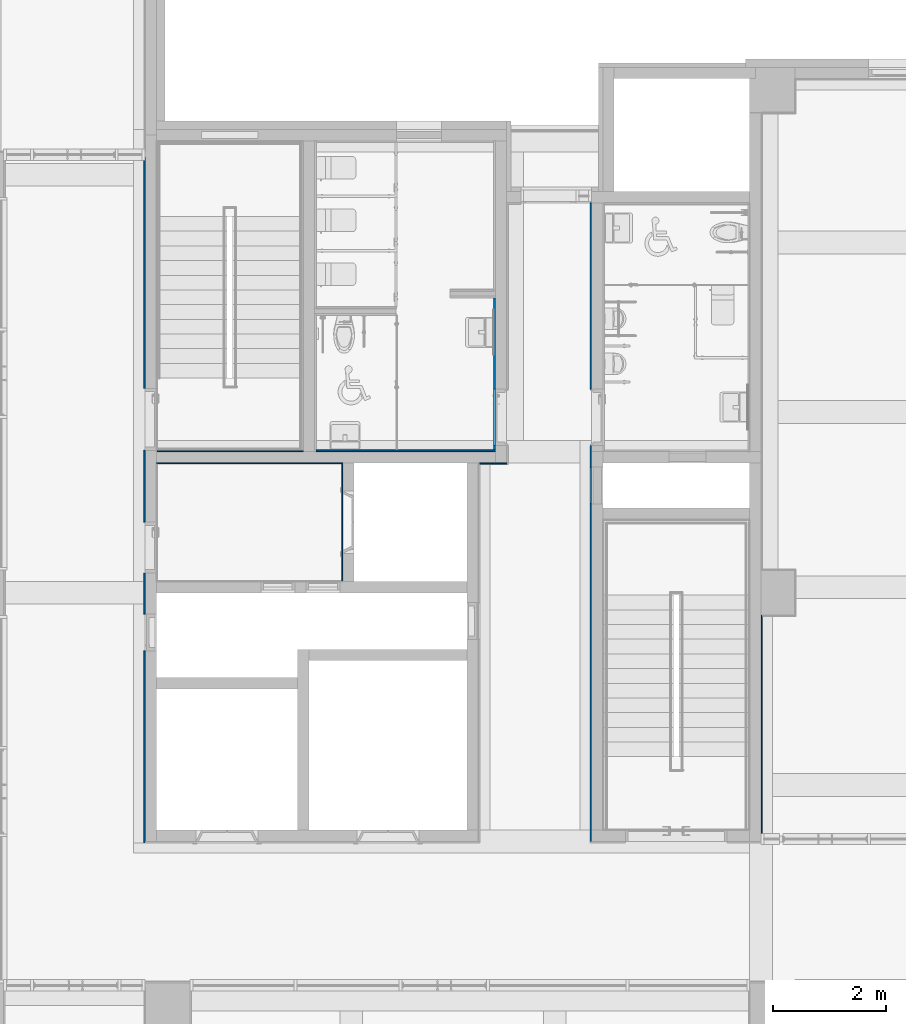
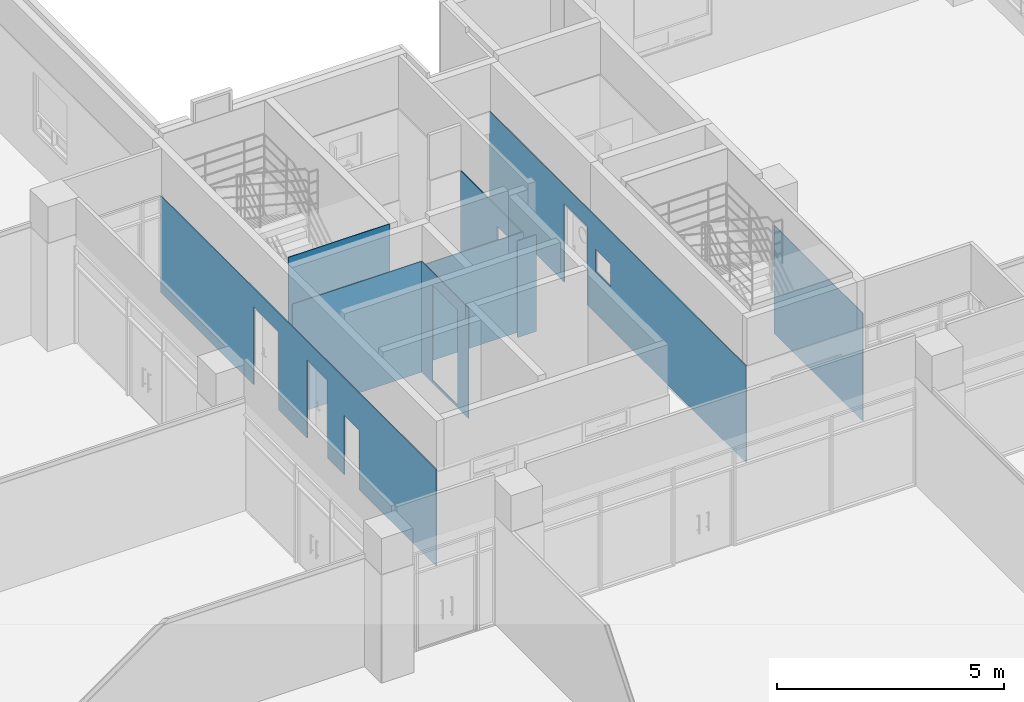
# One storey, part 57 of 81: 9 walls, 7 openings.
"""IFC2X3 building model written with IfcOpenShell, lengths in millimetres."""

import ifcopenshell
import ifcopenshell.guid

model = None  # the IFC model being written
_history = None  # IfcOwnerHistory: only IFC2X3 demands one
_inside = {}  # id of a spatial element -> (the spatial element, [elements in it])
_under = {}  # id of a project, library or spatial element -> (it, [spatial elements below it])
_declared = {}  # id of a project -> (the project, [libraries it declares])
_typed = {}  # id of a type object -> (the type object, [elements of that type])
_made_of = {}  # id of a material, layer set ... -> (it, [elements and type objects made of it])


def new_model(schema):
    """Start an empty IFC model of exactly this schema.

    Asked for "IFC4X3", IfcOpenShell would pick the latest addendum, in which some entities
    have other attributes; the version numbers below select the first issue.
    IFC2X3 requires an IfcOwnerHistory on every rooted entity: one is made here for all.
    """
    global model, _history
    if schema == "IFC4X3":
        model = ifcopenshell.file(schema_version=(4, 3, 0, 0))
    else:
        model = ifcopenshell.file(schema=schema)
    _inside.clear()
    _under.clear()
    _declared.clear()
    _typed.clear()
    _made_of.clear()
    _history = None
    if model.schema == "IFC2X3":
        org = make("IfcOrganization", Name="unknown")
        user = make(
            "IfcPersonAndOrganization",
            ThePerson=make("IfcPerson", FamilyName="unknown"),
            TheOrganization=org,
        )
        app = make(
            "IfcApplication",
            ApplicationDeveloper=org,
            Version="unknown",
            ApplicationFullName="unknown",
            ApplicationIdentifier="unknown",
        )
        _history = make(
            "IfcOwnerHistory",
            OwningUser=user,
            OwningApplication=app,
            ChangeAction="ADDED",
            CreationDate=0,
        )
    return model


def make(cls, **values):
    """One entity of the class cls with the attributes given. An attribute that is None is left unset."""
    return model.create_entity(
        cls, **{name: value for name, value in values.items() if value is not None}
    )


def entity(cls, *values):
    """Any entity or typed value of the class cls, its attributes in the order of the schema. None: left unset."""
    e = model.create_entity(cls)
    for i, value in enumerate(values):
        if value is not None:
            e[i] = value
    return e


def rooted(cls, **values):
    """An entity with a GlobalId (a new one), such as an element, a storey or a relation."""
    return make(cls, GlobalId=ifcopenshell.guid.new(), OwnerHistory=_history, **values)


def si_unit(unit_type, name, prefix=None):
    """IfcSIUnit, for example si_unit("LENGTHUNIT", "METRE", prefix="MILLI")."""
    return make("IfcSIUnit", UnitType=unit_type, Prefix=prefix, Name=name)


def converted_unit(unit_type, name, factor, base, dimensions=None, offset=None):
    """IfcConversionBasedUnit, such as the inch: factor (a typed value) times the base unit."""
    return make(
        "IfcConversionBasedUnit"
        if offset is None
        else "IfcConversionBasedUnitWithOffset",
        ConversionOffset=offset,
        Dimensions=None
        if dimensions is None
        else entity("IfcDimensionalExponents", *dimensions),
        UnitType=unit_type,
        Name=name,
        ConversionFactor=make(
            "IfcMeasureWithUnit", ValueComponent=factor, UnitComponent=base
        ),
    )


def derived_unit(unit_type, elements):
    """IfcDerivedUnit: a product of units, each with its exponent."""
    return make(
        "IfcDerivedUnit",
        Elements=[
            make("IfcDerivedUnitElement", Unit=unit, Exponent=power)
            for unit, power in elements
        ],
        UnitType=unit_type,
    )


def assignment(units):
    """IfcUnitAssignment: the units of a project."""
    return None if units is None else make("IfcUnitAssignment", Units=units)


def point(xyz):
    """IfcCartesianPoint."""
    return None if xyz is None else make("IfcCartesianPoint", Coordinates=xyz)


def direction(xyz):
    """IfcDirection."""
    return None if xyz is None else make("IfcDirection", DirectionRatios=xyz)


def frame(location, z_axis=None, x_axis=None):
    """IfcAxis2Placement3D, a coordinate frame: its origin and axes. An axis left out is left unset."""
    return make(
        "IfcAxis2Placement3D",
        Location=point(location),
        Axis=direction(z_axis),
        RefDirection=direction(x_axis),
    )


def frame_2d(location, x_axis=None):
    """IfcAxis2Placement2D, a coordinate frame in the plane: its origin and x axis."""
    return make(
        "IfcAxis2Placement2D", Location=point(location), RefDirection=direction(x_axis)
    )


def origin():
    """The frame at (0, 0, 0) with its axes left unset."""
    return frame((0.0, 0.0, 0.0))


def place(relative_to, where):
    """IfcLocalPlacement: puts the frame where relative to a parent placement (None: the world)."""
    return make(
        "IfcLocalPlacement", PlacementRelTo=relative_to, RelativePlacement=where
    )


def context(
    kind, dimensions, precision=None, world=None, true_north=None, identifier=None
):
    """IfcGeometricRepresentationContext, for example the 3D "Model" context."""
    return make(
        "IfcGeometricRepresentationContext",
        ContextIdentifier=identifier,
        ContextType=kind,
        CoordinateSpaceDimension=dimensions,
        Precision=precision,
        WorldCoordinateSystem=world,
        TrueNorth=true_north,
    )


def subcontext(parent, identifier, kind, view, scale=None):
    """IfcGeometricRepresentationSubContext, for example "Body" below "Model"."""
    return make(
        "IfcGeometricRepresentationSubContext",
        ContextIdentifier=identifier,
        ContextType=kind,
        ParentContext=parent,
        TargetScale=scale,
        TargetView=view,
    )


def project(units=None, contexts=None):
    """IfcProject with its units and contexts."""
    return rooted(
        "IfcProject",
        Name="project",
        RepresentationContexts=contexts,
        UnitsInContext=assignment(units),
    )


def spatial(cls, under=None, at=None, **own):
    """A site, building, storey or space (cls), placed at a placement, below another one or the project."""
    s = rooted(cls, ObjectPlacement=at, **own)
    if under is not None:
        _under.setdefault(under.id(), (under, []))[1].append(s)
    return s


def profile(cls, at=None, kind="AREA", **sizes):
    """A parametric profile (cls). Its sizes go by their IFC names, for example OverallWidth=200.0."""
    return make(cls, ProfileType=kind, Position=at, **sizes)


def rectangle(**sizes):
    """IfcRectangleProfileDef."""
    return profile("IfcRectangleProfileDef", **sizes)


def extrude(swept, where, along, depth):
    """IfcExtrudedAreaSolid: the profile swept, set in the frame where, extruded along a direction by depth."""
    return make(
        "IfcExtrudedAreaSolid",
        SweptArea=swept,
        Position=where,
        ExtrudedDirection=direction(along),
        Depth=depth,
    )


def shape(context_of_items, identifier, shape_type, items):
    """IfcShapeRepresentation: the items that make up one representation, for example the "Body"."""
    return make(
        "IfcShapeRepresentation",
        ContextOfItems=context_of_items,
        RepresentationIdentifier=identifier,
        RepresentationType=shape_type,
        Items=items,
    )


def material(Name=None, Category=None):
    """IfcMaterial."""
    return make("IfcMaterial", Name=Name, Category=Category)


def layer(
    of_material, thickness, ventilated=None, Name=None, Category=None, Priority=None
):
    """IfcMaterialLayer: one layer of a wall or slab, of a material (None: an air gap)."""
    return make(
        "IfcMaterialLayer",
        Material=of_material,
        LayerThickness=thickness,
        IsVentilated=ventilated,
        Name=Name,
        Category=Category,
        Priority=Priority,
    )


def layer_set(layers, Name=None):
    """IfcMaterialLayerSet."""
    return make("IfcMaterialLayerSet", MaterialLayers=layers, LayerSetName=Name)


def layer_usage(for_layer_set, set_direction, sense, offset, extent=None):
    """IfcMaterialLayerSetUsage: how a layer set lies in its element."""
    return make(
        "IfcMaterialLayerSetUsage",
        ForLayerSet=for_layer_set,
        LayerSetDirection=set_direction,
        DirectionSense=sense,
        OffsetFromReferenceLine=offset,
        ReferenceExtent=extent,
    )


def made_of(thing, what):
    """Note that an element or type object is made of a material, layer set ...; save() writes the relation."""
    if what is not None:
        _made_of.setdefault(what.id(), (what, []))[1].append(thing)
    return thing


def type_object(cls, material=None, **own):
    """A type object (cls), such as IfcWallType, which elements share."""
    return made_of(rooted(cls, **own), material)


def element(
    cls,
    number,
    at=None,
    inside=None,
    cuts=None,
    type_object=None,
    material=None,
    context=None,
    identifier="Body",
    shape_type=None,
    held_by="IfcProductDefinitionShape",
    body=None,
    shapes=None,
    **own,
):
    """One element of the class cls, such as IfcWall. Its Tag is "e" and its number.

    at: its placement. inside: the storey or other place that contains it. cuts: it is an
    opening in that element (IfcRelVoidsElement). A single representation is given by context,
    identifier, shape_type and body (its items); several are given by shapes. held_by: the class
    of the entity that holds the representations. save() writes the other relations.
    """
    e = rooted(cls, Tag="e%d" % number, ObjectPlacement=at, **own)
    if body is not None:
        shapes = [shape(context, identifier, shape_type, body)]
    if shapes is not None:
        e.Representation = make(held_by, Representations=shapes)
    if inside is not None:
        _inside.setdefault(inside.id(), (inside, []))[1].append(e)
    if cuts is not None:
        rooted(
            "IfcRelVoidsElement", RelatingBuildingElement=cuts, RelatedOpeningElement=e
        )
    if type_object is not None:
        _typed.setdefault(type_object.id(), (type_object, []))[1].append(e)
    return made_of(e, material)


def aggregate(whole, parts):
    """IfcRelAggregates: a whole, such as a stair, and the parts it consists of."""
    return rooted("IfcRelAggregates", RelatingObject=whole, RelatedObjects=parts)


def save(model, path):
    """Write the relations noted so far, then the file.

    IfcRelAggregates (storeys below a building ...), IfcRelContainedInSpatialStructure (elements
    in a storey), IfcRelDefinesByType, IfcRelAssociatesMaterial and IfcRelDeclares: one each for
    every whole, place, type object, material and project.
    """
    for whole, parts in _under.values():
        aggregate(whole, parts)
    for where, things in _inside.values():
        rooted(
            "IfcRelContainedInSpatialStructure",
            RelatedElements=things,
            RelatingStructure=where,
        )
    for kind, things in _typed.values():
        rooted("IfcRelDefinesByType", RelatedObjects=things, RelatingType=kind)
    for what, things in _made_of.values():
        rooted("IfcRelAssociatesMaterial", RelatedObjects=things, RelatingMaterial=what)
    for by, libraries in _declared.values():
        rooted("IfcRelDeclares", RelatingContext=by, RelatedDefinitions=libraries)
    model.write(path)


model = new_model("IFC2X3")

# Units and contexts
model_context = context("Model", 3, precision=0.01, world=origin(), true_north=direction((6.123031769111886e-17, 1.0)))
body_context = subcontext(model_context, "Body", "Model", "MODEL_VIEW")
ifc_project = project(units=[si_unit("LENGTHUNIT", "METRE", prefix="MILLI"), si_unit("AREAUNIT", "SQUARE_METRE"), si_unit("VOLUMEUNIT", "CUBIC_METRE"), converted_unit("PLANEANGLEUNIT", "DEGREE", entity("IfcRatioMeasure", 0.017453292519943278), si_unit("PLANEANGLEUNIT", "RADIAN"), dimensions=[0, 0, 0, 0, 0, 0, 0]), si_unit("MASSUNIT", "GRAM", prefix="KILO"), derived_unit("MASSDENSITYUNIT", [(si_unit("MASSUNIT", "GRAM", prefix="KILO"), 1), (si_unit("LENGTHUNIT", "METRE"), -3)]), derived_unit("MOMENTOFINERTIAUNIT", [(si_unit("LENGTHUNIT", "METRE"), 4)]), si_unit("TIMEUNIT", "SECOND"), si_unit("FREQUENCYUNIT", "HERTZ"), si_unit("THERMODYNAMICTEMPERATUREUNIT", "DEGREE_CELSIUS"), derived_unit("THERMALTRANSMITTANCEUNIT", [(si_unit("MASSUNIT", "GRAM", prefix="KILO"), 1), (si_unit("THERMODYNAMICTEMPERATUREUNIT", "KELVIN"), -1), (si_unit("TIMEUNIT", "SECOND"), -3)]), derived_unit("VOLUMETRICFLOWRATEUNIT", [(si_unit("LENGTHUNIT", "METRE"), 3), (si_unit("TIMEUNIT", "SECOND"), -1)]), derived_unit("MASSFLOWRATEUNIT", [(si_unit("MASSUNIT", "GRAM", prefix="KILO"), 1), (si_unit("TIMEUNIT", "SECOND"), -1)]), derived_unit("ROTATIONALFREQUENCYUNIT", [(si_unit("TIMEUNIT", "SECOND"), -1)]), si_unit("ELECTRICCURRENTUNIT", "AMPERE"), si_unit("ELECTRICVOLTAGEUNIT", "VOLT"), si_unit("POWERUNIT", "WATT"), si_unit("FORCEUNIT", "NEWTON", prefix="KILO"), si_unit("ILLUMINANCEUNIT", "LUX"), si_unit("LUMINOUSFLUXUNIT", "LUMEN"), si_unit("LUMINOUSINTENSITYUNIT", "CANDELA"), derived_unit("USERDEFINED", [(si_unit("MASSUNIT", "GRAM", prefix="KILO"), -1), (si_unit("LENGTHUNIT", "METRE"), -2), (si_unit("TIMEUNIT", "SECOND"), 3), (si_unit("LUMINOUSFLUXUNIT", "LUMEN"), 1)]), derived_unit("SOUNDPOWERUNIT", [(si_unit("MASSUNIT", "GRAM", prefix="KILO"), 1), (si_unit("LENGTHUNIT", "METRE"), 2), (si_unit("TIMEUNIT", "SECOND"), -3)]), derived_unit("SOUNDPRESSUREUNIT", [(si_unit("MASSUNIT", "GRAM", prefix="KILO"), 1), (si_unit("LENGTHUNIT", "METRE"), -1), (si_unit("TIMEUNIT", "SECOND"), -2)]), derived_unit("LINEARVELOCITYUNIT", [(si_unit("LENGTHUNIT", "METRE"), 1), (si_unit("TIMEUNIT", "SECOND"), -1)]), si_unit("PRESSUREUNIT", "PASCAL"), derived_unit("USERDEFINED", [(si_unit("LENGTHUNIT", "METRE"), -2), (si_unit("MASSUNIT", "GRAM", prefix="KILO"), 1), (si_unit("TIMEUNIT", "SECOND"), -2)]), derived_unit("LINEARFORCEUNIT", [(si_unit("MASSUNIT", "GRAM", prefix="KILO"), 1), (si_unit("LENGTHUNIT", "METRE"), 1), (si_unit("TIMEUNIT", "SECOND"), -2), (si_unit("LENGTHUNIT", "METRE"), -1)]), derived_unit("PLANARFORCEUNIT", [(si_unit("MASSUNIT", "GRAM", prefix="KILO"), 1), (si_unit("LENGTHUNIT", "METRE"), 1), (si_unit("TIMEUNIT", "SECOND"), -2), (si_unit("LENGTHUNIT", "METRE"), -2)])], contexts=[model_context])

# Site, building, storey
site_placement = place(None, frame((-14167.972527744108, -657.2125860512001, 0.0)))
site = spatial("IfcSite", under=ifc_project, at=site_placement, Name="Default", CompositionType="ELEMENT")
building_placement = place(site_placement, origin())
building = spatial("IfcBuilding", under=site, at=building_placement, Name="Sample Building", CompositionType="ELEMENT")
storey_placement = place(building_placement, frame((0.0, 0.0, 13400.0)))
storey = spatial("IfcBuildingStorey", under=building, at=storey_placement, Name="지상 4층", CompositionType="ELEMENT", Elevation=13400.00000000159)

# Walls
ifc_material_1 = material(Name="WA611-수성페인트 (내부) 벽 (3회)")
ifc_layer_1 = layer(ifc_material_1, 1.0)
ifc_material_2 = material(Name="WA551-시멘트모르타르 (내부) 벽 18mm")
ifc_layer_2 = layer(ifc_material_2, 16.0)
ifc_material_3 = material(Name="WA555-콘크리트면정리 벽 (내부)")
ifc_layer_3 = layer(ifc_material_3, 1.0)
ifc_layer_set_1 = layer_set([ifc_layer_1, ifc_layer_2, ifc_layer_3], Name="기본 벽:A1-32-06A-콘크리트면정리, 시멘트모르타르(미장용), 수성페인트(내부) (18mm)")
ifc_layer_usage_1 = layer_usage(ifc_layer_set_1, "AXIS2", "POSITIVE", -9.000000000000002)
wall_type_1 = type_object("IfcWallType", Name="기본 벽:A1-32-06A-콘크리트면정리, 시멘트모르타르(미장용), 수성페인트(내부) (18mm)", PredefinedType="STANDARD", material=ifc_layer_set_1)
wall_1_placement = place(storey_placement, frame((32867.97250957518, 22466.211902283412, 0.0), z_axis=(0.0, 0.0, 1.0), x_axis=(-1.0, 0.0, 0.0)))
element("IfcWallStandardCase", 1, at=wall_1_placement, inside=storey, type_object=wall_type_1, material=ifc_layer_usage_1, Name="기본 벽:A1-32-06A-콘크리트면정리, 시멘트모르타르(미장용), 수성페인트(내부) (18mm)", ObjectType="기본 벽:A1-32-06A-콘크리트면정리, 시멘트모르타르(미장용), 수성페인트(내부) (18mm)", context=body_context, shape_type="SweptSolid", body=[
    extrude(rectangle(XDim=2582.008729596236, YDim=18.00000000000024, at=frame_2d((1291.004364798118, -2.1662671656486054e-12), x_axis=(-1.0, 0.0))), origin(), (0.0, 0.0, 1.0), 4099.999999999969),
])
ifc_layer_usage_2 = layer_usage(ifc_layer_set_1, "AXIS2", "POSITIVE", -9.000000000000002)
wall_2_placement = place(storey_placement, frame((30267.963779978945, 22248.21190228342, 0.0)))
element("IfcWallStandardCase", 2, at=wall_2_placement, inside=storey, type_object=wall_type_1, material=ifc_layer_usage_2, Name="기본 벽:A1-32-06A-콘크리트면정리, 시멘트모르타르(미장용), 수성페인트(내부) (18mm)", ObjectType="기본 벽:A1-32-06A-콘크리트면정리, 시멘트모르타르(미장용), 수성페인트(내부) (18mm)", context=body_context, shape_type="SweptSolid", body=[
    extrude(rectangle(XDim=3282.64166407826, YDim=18.00000000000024, at=frame_2d((1641.32083203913, -2.1662671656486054e-12), x_axis=(-1.0, 0.0))), origin(), (0.0, 0.0, 1.0), 2979.999999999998),
])

# Wall, opening
ifc_layer_usage_3 = layer_usage(ifc_layer_set_1, "AXIS2", "POSITIVE", -9.000000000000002)
wall_3_placement = place(storey_placement, frame((33559.605444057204, 22257.211902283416, 0.0), z_axis=(0.0, 0.0, 1.0), x_axis=(0.0, -1.0, 0.0)))
wall_3 = element("IfcWallStandardCase", 3, at=wall_3_placement, inside=storey, type_object=wall_type_1, material=ifc_layer_usage_3, Name="기본 벽:A1-32-06A-콘크리트면정리, 시멘트모르타르(미장용), 수성페인트(내부) (18mm)", ObjectType="기본 벽:A1-32-06A-콘크리트면정리, 시멘트모르타르(미장용), 수성페인트(내부) (18mm)", context=body_context, shape_type="SweptSolid", body=[
    extrude(rectangle(XDim=2082.000003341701, YDim=18.00000000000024, at=frame_2d((1041.0000016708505, -2.76667577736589e-12), x_axis=(-1.0, 0.0))), origin(), (0.0, 0.0, 1.0), 2979.9999999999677),
])
opening_1_placement = place(wall_3_placement, origin())
element("IfcOpeningElement", 4, at=opening_1_placement, cuts=wall_3, Name="기본 벽:A1-32-06A-콘크리트면정리, 시멘트모르타르(미장용), 수성페인트(내부) (18mm)", ObjectType="Opening", context=body_context, shape_type="SweptSolid", body=[
    extrude(rectangle(XDim=2549.999999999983, YDim=1099.9999999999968, at=frame_2d((0.0, 2.1600499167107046e-12), x_axis=(1.0, 0.0))), frame((1049.9995926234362, -1315.6329529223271, 1355.0), z_axis=(0.0, 1.0, 0.0), x_axis=(0.0, 0.0, 1.0)), (0.0, 0.0, 1.0), 3048.0),
])

# Wall
ifc_layer_usage_4 = layer_usage(ifc_layer_set_1, "AXIS2", "POSITIVE", -9.000000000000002)
wall_4_placement = place(storey_placement, frame((40976.9638165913, 15647.212177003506, 80.0), z_axis=(0.0, 0.0, 1.0), x_axis=(0.0, 1.0, 0.0)))
element("IfcWallStandardCase", 5, at=wall_4_placement, inside=storey, type_object=wall_type_1, material=ifc_layer_usage_4, Name="기본 벽:A1-32-06A-콘크리트면정리, 시멘트모르타르(미장용), 수성페인트(내부) (18mm)", ObjectType="기본 벽:A1-32-06A-콘크리트면정리, 시멘트모르타르(미장용), 수성페인트(내부) (18mm)", context=body_context, shape_type="SweptSolid", body=[
    extrude(rectangle(XDim=3909.999721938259, YDim=17.999999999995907, at=frame_2d((1954.9998609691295, 1.0063061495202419e-12), x_axis=(-1.0, 0.0))), origin(), (0.0, 0.0, 1.0), 2899.999999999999),
])

# Wall, openings
ifc_layer_4 = layer(ifc_material_1, 1.0)
ifc_material_4 = material(Name="WA551-시멘트모르타르 (내부) 벽 24mm")
ifc_layer_5 = layer(ifc_material_4, 21.0)
ifc_material_5 = material(Name="WA961-바닥방수 연장")
ifc_layer_6 = layer(ifc_material_5, 1.0)
ifc_layer_7 = layer(ifc_material_3, 1.0)
ifc_layer_set_2 = layer_set([ifc_layer_4, ifc_layer_5, ifc_layer_6, ifc_layer_7], Name="기본 벽:A1-32-07A-콘크리트면정리, 바닥방수연장, 시멘트모르타르(미장용), 수성페인트(내부) (24mm)")
ifc_layer_usage_5 = layer_usage(ifc_layer_set_2, "AXIS2", "NEGATIVE", 12.000000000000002)
wall_type_2 = type_object("IfcWallType", Name="기본 벽:A1-32-07A-콘크리트면정리, 바닥방수연장, 시멘트모르타르(미장용), 수성페인트(내부) (24mm)", PredefinedType="STANDARD", material=ifc_layer_set_2)
wall_5_placement = place(storey_placement, frame((30055.963761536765, 15533.302947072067, 80.0), z_axis=(0.0, 0.0, 1.0), x_axis=(0.0, 1.0, 0.0)))
wall_5 = element("IfcWallStandardCase", 6, at=wall_5_placement, inside=storey, type_object=wall_type_2, material=ifc_layer_usage_5, Name="기본 벽:A1-32-07A-콘크리트면정리, 바닥방수연장, 시멘트모르타르(미장용), 수성페인트(내부) (24mm)", ObjectType="기본 벽:A1-32-07A-콘크리트면정리, 바닥방수연장, 시멘트모르타르(미장용), 수성페인트(내부) (24mm)", context=body_context, shape_type="SweptSolid", body=[
    extrude(rectangle(XDim=12133.909638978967, YDim=23.999999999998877, at=frame_2d((6066.954819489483, 2.1662671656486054e-12), x_axis=(1.0, 0.0))), origin(), (0.0, 0.0, 1.0), 2599.999999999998),
])
opening_2_placement = place(wall_5_placement, origin())
element("IfcOpeningElement", 7, at=opening_2_placement, cuts=wall_5, Name="기본 벽:A1-32-07A-콘크리트면정리, 바닥방수연장, 시멘트모르타르(미장용), 수성페인트(내부) (24mm)", ObjectType="Opening", context=body_context, shape_type="SweptSolid", body=[
    extrude(rectangle(XDim=2099.9999999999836, YDim=899.999999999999, at=frame_2d((1.0231815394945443e-12, 2.1600499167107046e-12), x_axis=(1.0, 0.0))), frame((5223.874678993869, -1536.0, 1050.0), z_axis=(0.0, 1.0, 0.0), x_axis=(0.0, 0.0, 1.0)), (0.0, 0.0, 1.0), 3048.0),
])
opening_3_placement = place(wall_5_placement, origin())
element("IfcOpeningElement", 8, at=opening_3_placement, cuts=wall_5, Name="기본 벽:A1-32-07A-콘크리트면정리, 바닥방수연장, 시멘트모르타르(미장용), 수성페인트(내부) (24mm)", ObjectType="Opening", context=body_context, shape_type="SweptSolid", body=[
    extrude(rectangle(XDim=2099.9999999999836, YDim=1100.0000000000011, at=frame_2d((1.0231815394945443e-12, 0.0), x_axis=(1.0, 0.0))), frame((7493.874680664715, -1536.0, 1050.0), z_axis=(0.0, 1.0, 0.0), x_axis=(0.0, 0.0, 1.0)), (0.0, 0.0, 1.0), 3048.0),
])
opening_4_placement = place(wall_5_placement, origin())
element("IfcOpeningElement", 9, at=opening_4_placement, cuts=wall_5, Name="기본 벽:A1-32-07A-콘크리트면정리, 바닥방수연장, 시멘트모르타르(미장용), 수성페인트(내부) (24mm)", ObjectType="Opening", context=body_context, shape_type="SweptSolid", body=[
    extrude(rectangle(XDim=1600.0, YDim=649.9999999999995, at=frame_2d((0.0, 0.0), x_axis=(0.0, 1.0))), frame((3723.8747316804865, -1736.0, 800.0), z_axis=(0.0, 1.0, 0.0), x_axis=(-1.0, 0.0, 0.0)), (0.0, 0.0, 1.0), 3048.0),
])

ifc_layer_usage_6 = layer_usage(ifc_layer_set_2, "AXIS2", "NEGATIVE", 12.000000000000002)
wall_6_placement = place(storey_placement, frame((37955.96381659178, 15557.177268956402, 80.0), z_axis=(0.0, 0.0, 1.0), x_axis=(0.0, 1.0, 0.0)))
wall_6 = element("IfcWallStandardCase", 10, at=wall_6_placement, inside=storey, type_object=wall_type_2, material=ifc_layer_usage_6, Name="기본 벽:A1-32-07A-콘크리트면정리, 바닥방수연장, 시멘트모르타르(미장용), 수성페인트(내부) (24mm)", ObjectType="기본 벽:A1-32-07A-콘크리트면정리, 바닥방수연장, 시멘트모르타르(미장용), 수성페인트(내부) (24mm)", context=body_context, shape_type="SweptSolid", body=[
    extrude(rectangle(XDim=11300.03502618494, YDim=23.999999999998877, at=frame_2d((5650.01751309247, 2.1662671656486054e-12), x_axis=(1.0, 0.0))), origin(), (0.0, 0.0, 1.0), 2599.999999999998),
])
opening_5_placement = place(wall_6_placement, origin())
element("IfcOpeningElement", 11, at=opening_5_placement, cuts=wall_6, Name="기본 벽:A1-32-07A-콘크리트면정리, 바닥방수연장, 시멘트모르타르(미장용), 수성페인트(내부) (24mm)", ObjectType="Opening", context=body_context, shape_type="SweptSolid", body=[
    extrude(rectangle(XDim=2099.9999999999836, YDim=999.999999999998, at=frame_2d((1.0231815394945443e-12, 0.0), x_axis=(1.0, 0.0))), frame((7506.495549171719, -1535.9999815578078, 1050.0), z_axis=(0.0, 1.0, 0.0), x_axis=(0.0, 0.0, 1.0)), (0.0, 0.0, 1.0), 3048.0),
])
opening_6_placement = place(wall_6_placement, origin())
element("IfcOpeningElement", 12, at=opening_6_placement, cuts=wall_6, Name="기본 벽:A1-32-07A-콘크리트면정리, 바닥방수연장, 시멘트모르타르(미장용), 수성페인트(내부) (24mm)", ObjectType="Opening", context=body_context, shape_type="SweptSolid", body=[
    extrude(rectangle(XDim=600.0, YDim=649.9999999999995, at=frame_2d((0.0, 1.0800249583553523e-12), x_axis=(0.0, 1.0))), frame((6300.000404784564, -1735.9999815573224, 1420.0), z_axis=(0.0, 1.0, 0.0), x_axis=(-1.0, 0.0, 0.0)), (0.0, 0.0, 1.0), 3048.0),
])

# Wall
ifc_layer_usage_7 = layer_usage(ifc_layer_set_2, "AXIS2", "NEGATIVE", 12.000000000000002)
wall_7_placement = place(storey_placement, frame((36467.96381659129, 22245.21190228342, 80.0), z_axis=(0.0, 0.0, 1.0), x_axis=(-1.0, 0.0, 0.0)))
element("IfcWallStandardCase", 13, at=wall_7_placement, inside=storey, type_object=wall_type_2, material=ifc_layer_usage_7, Name="기본 벽:A1-32-07A-콘크리트면정리, 바닥방수연장, 시멘트모르타르(미장용), 수성페인트(내부) (24mm)", ObjectType="기본 벽:A1-32-07A-콘크리트면정리, 바닥방수연장, 시멘트모르타르(미장용), 수성페인트(내부) (24mm)", context=body_context, shape_type="SweptSolid", body=[
    extrude(rectangle(XDim=475.9913254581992, YDim=23.999999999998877, at=frame_2d((237.9956627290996, 2.1662671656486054e-12), x_axis=(-1.0, 0.0))), origin(), (0.0, 0.0, 1.0), 2599.999999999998),
])

# Wall, opening
ifc_material_6 = material(Name="WA352-도기질타일 벽 200x200")
ifc_layer_8 = layer(ifc_material_6, 8.0)
ifc_material_7 = material(Name="WA551-시멘트모르타르 (내부) 벽 22mm")
ifc_layer_9 = layer(ifc_material_7, 22.0)
ifc_layer_set_3 = layer_set([ifc_layer_8, ifc_layer_9], Name="기본 벽:A1-33-01B-시멘트 모르타르, 도기질타일 (30mm)")
ifc_layer_usage_8 = layer_usage(ifc_layer_set_3, "AXIS2", "POSITIVE", -15.0)
wall_type_3 = type_object("IfcWallType", Name="기본 벽:A1-33-01B-시멘트 모르타르, 도기질타일 (30mm)", PredefinedType="STANDARD", material=ifc_layer_set_3)
wall_8_placement = place(storey_placement, frame((36252.96379815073, 22487.212311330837, 40.0), z_axis=(0.0, 0.0, 1.0), x_axis=(0.0, 1.0, 0.0)))
wall_8 = element("IfcWallStandardCase", 14, at=wall_8_placement, inside=storey, type_object=wall_type_3, material=ifc_layer_usage_8, Name="기본 벽:A1-33-01B-시멘트 모르타르, 도기질타일 (30mm)", ObjectType="기본 벽:A1-33-01B-시멘트 모르타르, 도기질타일 (30mm)", context=body_context, shape_type="SweptSolid", body=[
    extrude(rectangle(XDim=2689.999998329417, YDim=30.000000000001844, at=frame_2d((1344.9999991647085, 1.0649259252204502e-12), x_axis=(-1.0, 0.0))), origin(), (0.0, 0.0, 1.0), 2649.9999999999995),
])
opening_7_placement = place(wall_8_placement, origin())
element("IfcOpeningElement", 15, at=opening_7_placement, cuts=wall_8, Name="기본 벽:A1-33-01B-시멘트 모르타르, 도기질타일 (30mm)", ObjectType="Opening", context=body_context, shape_type="SweptSolid", body=[
    extrude(rectangle(XDim=2099.9999999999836, YDim=999.999999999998, at=frame_2d((1.0231815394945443e-12, 0.0), x_axis=(1.0, 0.0))), frame((576.4605067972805, -1739.0, 1090.0), z_axis=(0.0, 1.0, 0.0), x_axis=(0.0, 0.0, 1.0)), (0.0, 0.0, 1.0), 3048.0),
])

# Wall
ifc_layer_usage_9 = layer_usage(ifc_layer_set_3, "AXIS2", "POSITIVE", -15.0)
wall_9_placement = place(storey_placement, frame((33097.98122724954, 22472.212311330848, 40.0)))
element("IfcWallStandardCase", 16, at=wall_9_placement, inside=storey, type_object=wall_type_3, material=ifc_layer_usage_9, Name="기본 벽:A1-33-01B-시멘트 모르타르, 도기질타일 (30mm)", ObjectType="기본 벽:A1-33-01B-시멘트 모르타르, 도기질타일 (30mm)", context=body_context, shape_type="SweptSolid", body=[
    extrude(rectangle(XDim=3169.982570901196, YDim=30.00000000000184, at=frame_2d((1584.991285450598, 7.016609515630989e-13), x_axis=(-1.0, 0.0))), origin(), (0.0, 0.0, 1.0), 2649.9999999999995),
])

save(model, "model.ifc")
